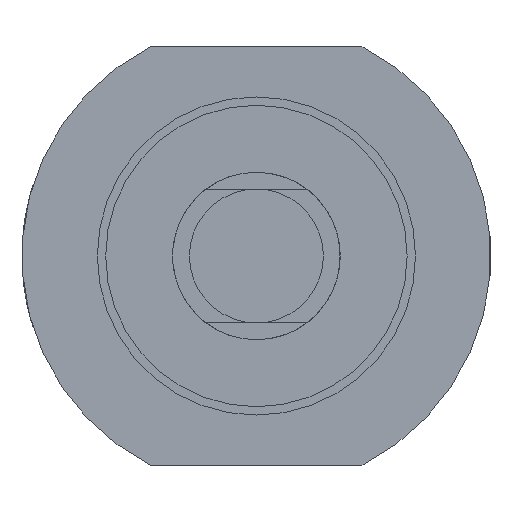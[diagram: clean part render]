
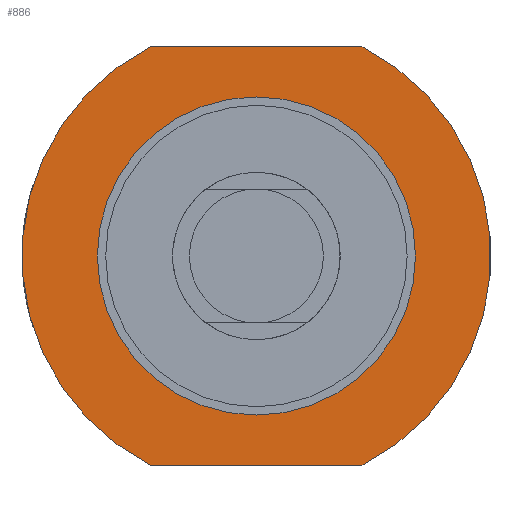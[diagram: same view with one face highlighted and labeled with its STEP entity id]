
A CAD part, left-side view. The second image highlights one B-rep face of the part: STEP entity #886.
In plain terms, the highlighted planar face has unit normal (-1, 0, 0).
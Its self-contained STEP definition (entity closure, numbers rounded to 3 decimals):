
#18 = FACE_BOUND ( 'NONE', #1289, .T. ) ;
#55 = LINE ( 'NONE', #1556, #514 ) ;
#69 = ORIENTED_EDGE ( 'NONE', *, *, #433, .F. ) ;
#128 = VERTEX_POINT ( 'NONE', #1015 ) ;
#139 = DIRECTION ( 'NONE',  ( 1., 0., 0. ) ) ;
#162 = CARTESIAN_POINT ( 'NONE',  ( 49., 6.305, 12.5 ) ) ;
#216 = EDGE_CURVE ( 'NONE', #916, #128, #320, .T. ) ;
#231 = DIRECTION ( 'NONE',  ( 0., 0., 1. ) ) ;
#233 = VERTEX_POINT ( 'NONE', #721 ) ;
#247 = CARTESIAN_POINT ( 'NONE',  ( 49., -6.305, -12.5 ) ) ;
#271 = EDGE_CURVE ( 'NONE', #1011, #128, #1176, .T. ) ;
#272 = CARTESIAN_POINT ( 'NONE',  ( 49., 0., 9.5 ) ) ;
#304 = DIRECTION ( 'NONE',  ( -1., 0., 0. ) ) ;
#320 = LINE ( 'NONE', #1304, #1481 ) ;
#322 = DIRECTION ( 'NONE',  ( -1., 0., 0. ) ) ;
#329 = CIRCLE ( 'NONE', #1092, 14. ) ;
#376 = CIRCLE ( 'NONE', #495, 9.5 ) ;
#414 = ORIENTED_EDGE ( 'NONE', *, *, #1516, .T. ) ;
#418 = ORIENTED_EDGE ( 'NONE', *, *, #216, .F. ) ;
#425 = PLANE ( 'NONE',  #1328 ) ;
#433 = EDGE_CURVE ( 'NONE', #939, #233, #376, .T. ) ;
#439 = CARTESIAN_POINT ( 'NONE',  ( 49., 0., 0. ) ) ;
#467 = EDGE_LOOP ( 'NONE', ( #414, #1266, #1115, #418 ) ) ;
#495 = AXIS2_PLACEMENT_3D ( 'NONE', #1078, #304, #231 ) ;
#506 = AXIS2_PLACEMENT_3D ( 'NONE', #703, #1030, #1056 ) ;
#513 = EDGE_CURVE ( 'NONE', #233, #939, #569, .T. ) ;
#514 = VECTOR ( 'NONE', #1147, 1000. ) ;
#541 = DIRECTION ( 'NONE',  ( 0., 0., -1. ) ) ;
#569 = CIRCLE ( 'NONE', #506, 9.5 ) ;
#703 = CARTESIAN_POINT ( 'NONE',  ( 49., 0., 0. ) ) ;
#721 = CARTESIAN_POINT ( 'NONE',  ( 49., 0., -9.5 ) ) ;
#815 = CARTESIAN_POINT ( 'NONE',  ( 49., 0., -14. ) ) ;
#873 = DIRECTION ( 'NONE',  ( 0., 0., 1. ) ) ;
#886 = ADVANCED_FACE ( 'NONE', ( #18, #1141 ), #425, .F. ) ;
#916 = VERTEX_POINT ( 'NONE', #162 ) ;
#939 = VERTEX_POINT ( 'NONE', #272 ) ;
#1011 = VERTEX_POINT ( 'NONE', #247 ) ;
#1015 = CARTESIAN_POINT ( 'NONE',  ( 49., -6.305, 12.5 ) ) ;
#1030 = DIRECTION ( 'NONE',  ( -1., 0., 0. ) ) ;
#1035 = DIRECTION ( 'NONE',  ( -1., 0., 0. ) ) ;
#1038 = VERTEX_POINT ( 'NONE', #1555 ) ;
#1049 = CARTESIAN_POINT ( 'NONE',  ( 49., 0., 0. ) ) ;
#1056 = DIRECTION ( 'NONE',  ( 0., 0., 1. ) ) ;
#1078 = CARTESIAN_POINT ( 'NONE',  ( 49., 0., 0. ) ) ;
#1092 = AXIS2_PLACEMENT_3D ( 'NONE', #439, #1035, #1286 ) ;
#1115 = ORIENTED_EDGE ( 'NONE', *, *, #271, .T. ) ;
#1119 = EDGE_CURVE ( 'NONE', #1011, #1038, #55, .T. ) ;
#1141 = FACE_OUTER_BOUND ( 'NONE', #467, .T. ) ;
#1147 = DIRECTION ( 'NONE',  ( 0., 1., 0. ) ) ;
#1176 = CIRCLE ( 'NONE', #1302, 14. ) ;
#1266 = ORIENTED_EDGE ( 'NONE', *, *, #1119, .F. ) ;
#1286 = DIRECTION ( 'NONE',  ( 0., 0., 1. ) ) ;
#1289 = EDGE_LOOP ( 'NONE', ( #69, #1488 ) ) ;
#1302 = AXIS2_PLACEMENT_3D ( 'NONE', #1049, #322, #873 ) ;
#1304 = CARTESIAN_POINT ( 'NONE',  ( 49., 11.874, 12.5 ) ) ;
#1328 = AXIS2_PLACEMENT_3D ( 'NONE', #815, #139, #541 ) ;
#1407 = DIRECTION ( 'NONE',  ( 0., -1., 0. ) ) ;
#1481 = VECTOR ( 'NONE', #1407, 1000. ) ;
#1488 = ORIENTED_EDGE ( 'NONE', *, *, #513, .F. ) ;
#1516 = EDGE_CURVE ( 'NONE', #916, #1038, #329, .T. ) ;
#1555 = CARTESIAN_POINT ( 'NONE',  ( 49., 6.305, -12.5 ) ) ;
#1556 = CARTESIAN_POINT ( 'NONE',  ( 49., 11.874, -12.5 ) ) ;
